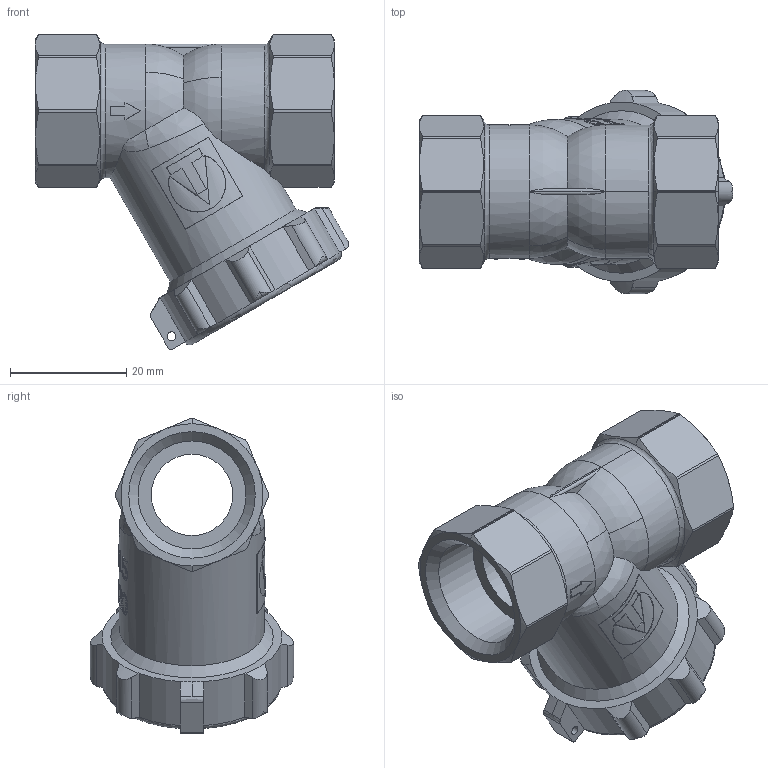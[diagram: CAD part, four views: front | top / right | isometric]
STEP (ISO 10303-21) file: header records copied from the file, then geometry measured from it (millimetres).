
FILE_DESCRIPTION(('TFLEX Exchange Step'),'2;1');
FILE_NAME('Strainer DN15 1_2 VT.193.N Valtec.stp', '2023-09-12T14:23:49+03:00',('denis'),('Unknown organisation'),'TFLEX Exchange 2023.0','T-FLEX CAD','Unknown authorisation');
FILE_SCHEMA( ('AUTOMOTIVE_DESIGN { 1 0 10303 214 1 1 1 1 }') );
Length unit declared in the file: millimetre
Products named in the file (1): Nodes
Bounding box: 53.96 x 35 x 54.29 mm (x, y, z)
Volume: 28542.8 mm3; surface area: 10188.1 mm2
Topology: 1 solids, 1 shells, 331 faces, 881 edges, 570 vertices
Faces by surface type: plane 118, bspline 95, cylinder 61, cone 37, torus 12, sphere 8
Full cylindrical faces by diameter (mm): 1.5 x1, 14 x1, 18.6 x2, 23 x1, 25 x1
Entity records: 12976 total; most frequent: CARTESIAN_POINT 5464, ORIENTED_EDGE 1758, DIRECTION 1269, EDGE_CURVE 879, VERTEX_POINT 570, AXIS2_PLACEMENT_3D 474, EDGE_LOOP 355, FACE_BOUND 355
